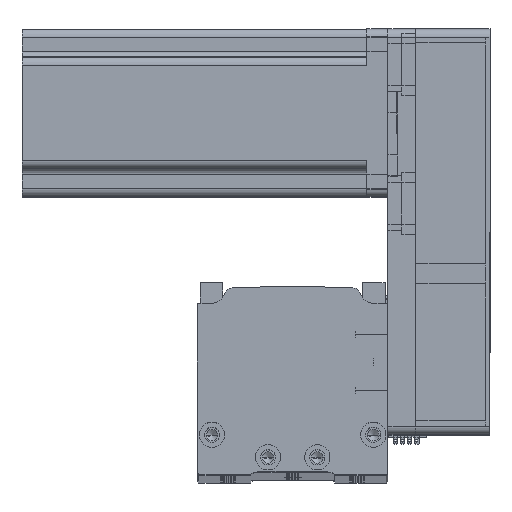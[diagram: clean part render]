
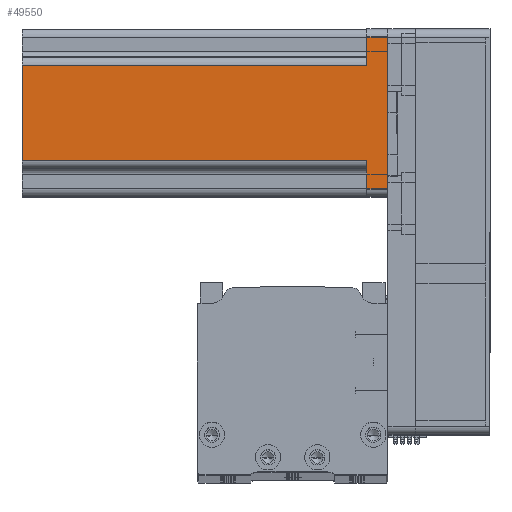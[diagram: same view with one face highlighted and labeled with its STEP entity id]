
A CAD part, top view. The second image highlights one B-rep face of the part: STEP entity #49550.
In plain terms, the highlighted planar face has unit normal (0, 0, 1) as drawn and (0, -1, 0) by its records, which use the part's own axes.
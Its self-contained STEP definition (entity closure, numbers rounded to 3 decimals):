
#435 = CARTESIAN_POINT ( 'NONE',  ( 30., -30., 130.7 ) ) ;
#2517 = ORIENTED_EDGE ( 'NONE', *, *, #23437, .T. ) ;
#6317 = LINE ( 'NONE', #27050, #41145 ) ;
#6424 = EDGE_CURVE ( 'NONE', #13076, #36824, #31718, .T. ) ;
#6525 = LINE ( 'NONE', #13422, #31716 ) ;
#9681 = LINE ( 'NONE', #19532, #33382 ) ;
#11007 = CARTESIAN_POINT ( 'NONE',  ( -27., -30., 7.5 ) ) ;
#12121 = EDGE_CURVE ( 'NONE', #16071, #55829, #37409, .T. ) ;
#12204 = VECTOR ( 'NONE', #32319, 1000. ) ;
#12577 = LINE ( 'NONE', #17688, #23667 ) ;
#12979 = PLANE ( 'NONE',  #33185 ) ;
#13076 = VERTEX_POINT ( 'NONE', #51421 ) ;
#13391 = EDGE_CURVE ( 'NONE', #21568, #49626, #9681, .T. ) ;
#13422 = CARTESIAN_POINT ( 'NONE',  ( -27., -30., 130.7 ) ) ;
#14305 = EDGE_CURVE ( 'NONE', #21568, #47949, #6525, .T. ) ;
#14549 = LINE ( 'NONE', #17055, #27128 ) ;
#15996 = CARTESIAN_POINT ( 'NONE',  ( 27., -30., 0. ) ) ;
#16071 = VERTEX_POINT ( 'NONE', #15996 ) ;
#17055 = CARTESIAN_POINT ( 'NONE',  ( 30., -30., 0. ) ) ;
#17688 = CARTESIAN_POINT ( 'NONE',  ( 17., -30., 130.7 ) ) ;
#19358 = EDGE_CURVE ( 'NONE', #55829, #52840, #60485, .T. ) ;
#19532 = CARTESIAN_POINT ( 'NONE',  ( -20., -30., 7.5 ) ) ;
#20389 = CARTESIAN_POINT ( 'NONE',  ( 20., -30., 7.5 ) ) ;
#21161 = EDGE_CURVE ( 'NONE', #47949, #16071, #14549, .T. ) ;
#21568 = VERTEX_POINT ( 'NONE', #11007 ) ;
#22041 = ORIENTED_EDGE ( 'NONE', *, *, #13391, .F. ) ;
#22701 = CARTESIAN_POINT ( 'NONE',  ( 30., -30., 130.7 ) ) ;
#22898 = CARTESIAN_POINT ( 'NONE',  ( -17., -30., 7.5 ) ) ;
#23437 = EDGE_CURVE ( 'NONE', #52840, #36824, #12577, .T. ) ;
#23667 = VECTOR ( 'NONE', #55542, 1000. ) ;
#25893 = ORIENTED_EDGE ( 'NONE', *, *, #12121, .T. ) ;
#27050 = CARTESIAN_POINT ( 'NONE',  ( -17., -30., 130.7 ) ) ;
#27128 = VECTOR ( 'NONE', #54896, 1000. ) ;
#27479 = DIRECTION ( 'NONE',  ( -1., 0., 0. ) ) ;
#27572 = CARTESIAN_POINT ( 'NONE',  ( 17., -30., 130.7 ) ) ;
#28131 = ORIENTED_EDGE ( 'NONE', *, *, #14305, .T. ) ;
#28542 = ORIENTED_EDGE ( 'NONE', *, *, #6424, .F. ) ;
#29267 = DIRECTION ( 'NONE',  ( 1., 0., 0. ) ) ;
#30285 = CARTESIAN_POINT ( 'NONE',  ( -27., -30., 0. ) ) ;
#31408 = FACE_OUTER_BOUND ( 'NONE', #33975, .T. ) ;
#31716 = VECTOR ( 'NONE', #46158, 1000. ) ;
#31718 = LINE ( 'NONE', #435, #58383 ) ;
#31821 = DIRECTION ( 'NONE',  ( 0., 0., -1. ) ) ;
#32084 = CARTESIAN_POINT ( 'NONE',  ( 27., -30., 7.5 ) ) ;
#32319 = DIRECTION ( 'NONE',  ( 0., 0., 1. ) ) ;
#33185 = AXIS2_PLACEMENT_3D ( 'NONE', #22701, #55811, #27479 ) ;
#33382 = VECTOR ( 'NONE', #29267, 1000. ) ;
#33975 = EDGE_LOOP ( 'NONE', ( #28542, #34495, #22041, #28131, #50433, #25893, #53824, #2517 ) ) ;
#34495 = ORIENTED_EDGE ( 'NONE', *, *, #51913, .T. ) ;
#34697 = DIRECTION ( 'NONE',  ( -1., 0., 0. ) ) ;
#36246 = CARTESIAN_POINT ( 'NONE',  ( 17., -30., 7.5 ) ) ;
#36824 = VERTEX_POINT ( 'NONE', #27572 ) ;
#37409 = LINE ( 'NONE', #51328, #12204 ) ;
#38310 = DIRECTION ( 'NONE',  ( 1., 0., 0. ) ) ;
#41145 = VECTOR ( 'NONE', #31821, 1000. ) ;
#46158 = DIRECTION ( 'NONE',  ( 0., 0., -1. ) ) ;
#47907 = VECTOR ( 'NONE', #34697, 1000. ) ;
#47949 = VERTEX_POINT ( 'NONE', #30285 ) ;
#49550 = ADVANCED_FACE ( 'NONE', ( #31408 ), #12979, .F. ) ;
#49626 = VERTEX_POINT ( 'NONE', #22898 ) ;
#50433 = ORIENTED_EDGE ( 'NONE', *, *, #21161, .T. ) ;
#51328 = CARTESIAN_POINT ( 'NONE',  ( 27., -30., 130.7 ) ) ;
#51421 = CARTESIAN_POINT ( 'NONE',  ( -17., -30., 130.7 ) ) ;
#51913 = EDGE_CURVE ( 'NONE', #13076, #49626, #6317, .T. ) ;
#52840 = VERTEX_POINT ( 'NONE', #36246 ) ;
#53824 = ORIENTED_EDGE ( 'NONE', *, *, #19358, .T. ) ;
#54896 = DIRECTION ( 'NONE',  ( 1., 0., 0. ) ) ;
#55542 = DIRECTION ( 'NONE',  ( 0., 0., 1. ) ) ;
#55811 = DIRECTION ( 'NONE',  ( 0., 1., 0. ) ) ;
#55829 = VERTEX_POINT ( 'NONE', #32084 ) ;
#58383 = VECTOR ( 'NONE', #38310, 1000. ) ;
#60485 = LINE ( 'NONE', #20389, #47907 ) ;
